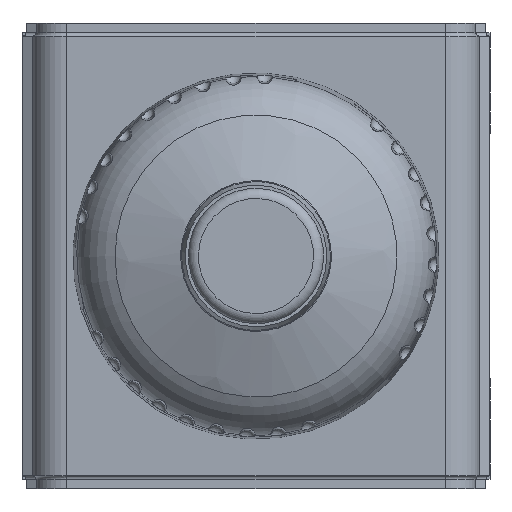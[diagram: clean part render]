
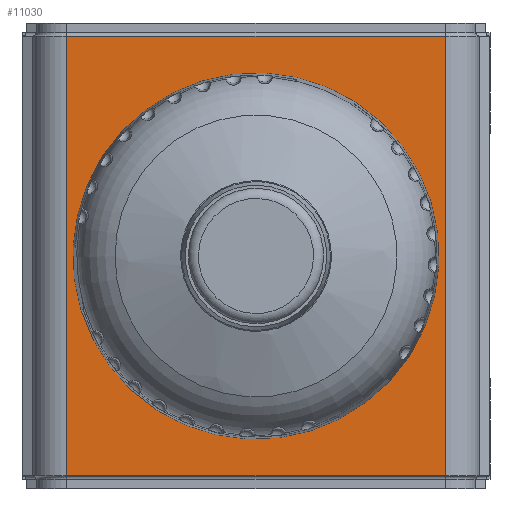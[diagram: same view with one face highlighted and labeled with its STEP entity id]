
A CAD part, front view. The second image highlights one B-rep face of the part: STEP entity #11030.
In plain terms, the highlighted planar face has unit normal (0, -1, 0).
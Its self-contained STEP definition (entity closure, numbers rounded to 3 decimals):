
#9461=CARTESIAN_POINT('',(-21.565,-33.5,-16.37));
#9462=VERTEX_POINT('',#9461);
#9463=CARTESIAN_POINT('',(0.,-33.5,0.));
#9464=DIRECTION('',(0.,1.,0.));
#9465=DIRECTION('',(-0.797,0.,-0.605));
#9466=AXIS2_PLACEMENT_3D('',#9463,#9464,#9465);
#9467=CIRCLE('',#9466,27.074);
#9468=EDGE_CURVE('',#9462,#9462,#9467,.T.);
#10598=CARTESIAN_POINT('',(28.,-33.5,-32.5));
#10599=VERTEX_POINT('',#10598);
#10645=CARTESIAN_POINT('',(-28.,-33.5,-32.5));
#10646=VERTEX_POINT('',#10645);
#10647=CARTESIAN_POINT('',(-28.,-33.5,-32.5));
#10648=DIRECTION('',(1.0,0.0,0.0));
#10649=VECTOR('',#10648,56.0);
#10650=LINE('',#10647,#10649);
#10651=EDGE_CURVE('',#10646,#10599,#10650,.T.);
#10985=CARTESIAN_POINT('',(-28.,-33.5,32.5));
#10986=VERTEX_POINT('',#10985);
#10987=CARTESIAN_POINT('',(-28.0,-33.5,-32.5));
#10988=DIRECTION('',(0.0,0.0,1.0));
#10989=VECTOR('',#10988,65.);
#10990=LINE('',#10987,#10989);
#10991=EDGE_CURVE('',#10646,#10986,#10990,.T.);
#11004=CARTESIAN_POINT('',(0.0,-33.5,0.0));
#11005=DIRECTION('',(0.0,-1.0,0.0));
#11006=DIRECTION('',(0.0,0.0,-1.0));
#11007=AXIS2_PLACEMENT_3D('',#11004,#11005,#11006);
#11008=PLANE('',#11007);
#11009=ORIENTED_EDGE('',*,*,#10651,.T.);
#11010=CARTESIAN_POINT('',(28.,-33.5,32.5));
#11011=VERTEX_POINT('',#11010);
#11012=CARTESIAN_POINT('',(28.0,-33.5,-32.5));
#11013=DIRECTION('',(0.0,0.0,1.0));
#11014=VECTOR('',#11013,65.);
#11015=LINE('',#11012,#11014);
#11016=EDGE_CURVE('',#10599,#11011,#11015,.T.);
#11017=ORIENTED_EDGE('',*,*,#11016,.T.);
#11018=CARTESIAN_POINT('',(28.,-33.5,32.5));
#11019=DIRECTION('',(-1.0,0.0,0.0));
#11020=VECTOR('',#11019,56.0);
#11021=LINE('',#11018,#11020);
#11022=EDGE_CURVE('',#11011,#10986,#11021,.T.);
#11023=ORIENTED_EDGE('',*,*,#11022,.T.);
#11024=ORIENTED_EDGE('',*,*,#10991,.F.);
#11025=EDGE_LOOP('',(#11009,#11017,#11023,#11024));
#11026=FACE_OUTER_BOUND('',#11025,.T.);
#11027=ORIENTED_EDGE('',*,*,#9468,.T.);
#11028=EDGE_LOOP('',(#11027));
#11029=FACE_BOUND('',#11028,.T.);
#11030=ADVANCED_FACE('',(#11026,#11029),#11008,.T.);
